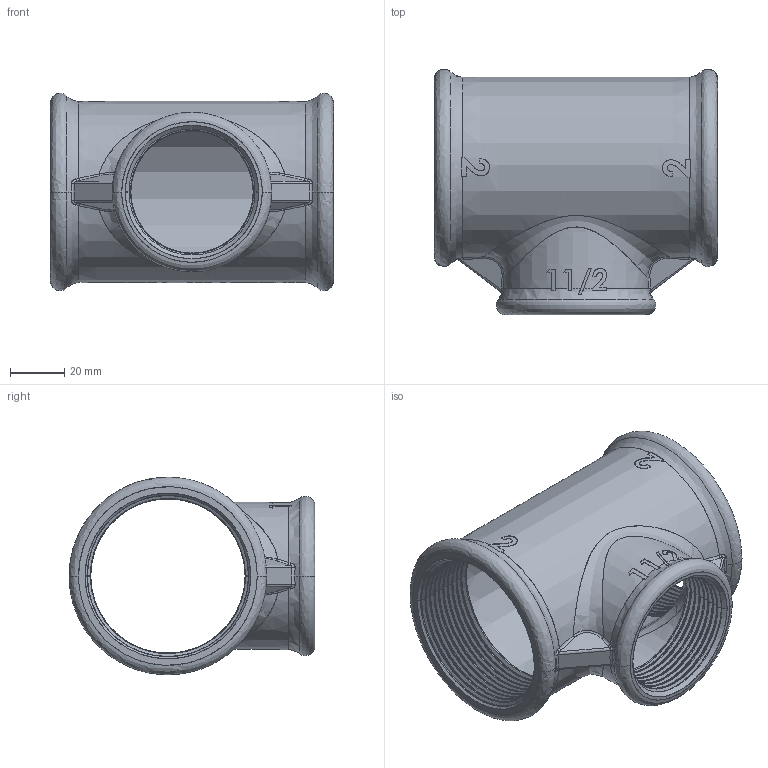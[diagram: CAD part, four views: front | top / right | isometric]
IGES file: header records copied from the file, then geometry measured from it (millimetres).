
Start section: SolidWorks IGES file using analytic representation for surfaces
Global section: file name: C:\Users\Joel Rosa\Desktop\Tubulação\12-45-XXX\12-45-047.IGS; native system: SolidWorks 2011; preprocessor: SolidWorks 2011; author: Joel Rosa; date: 121212.234347; units: millimetre
Bounding box: 104 x 90.3 x 72.58 mm (x, y, z)
Surface area: 56546.2 mm2 (no closed solid volume)
Topology: 0 solids, 0 shells, 497 faces, 4815 edges, 4815 vertices
Faces by surface type: bspline 350, revolution 147
